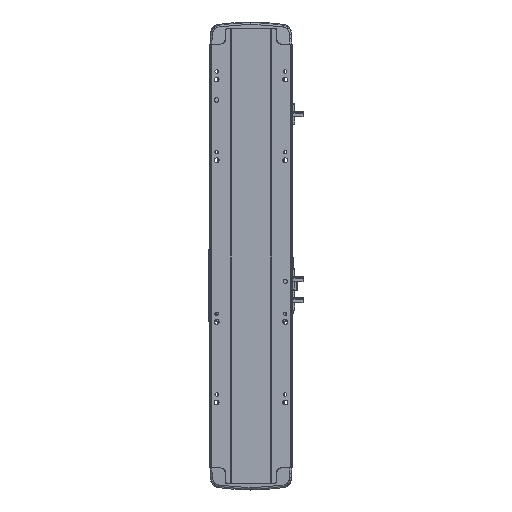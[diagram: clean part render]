
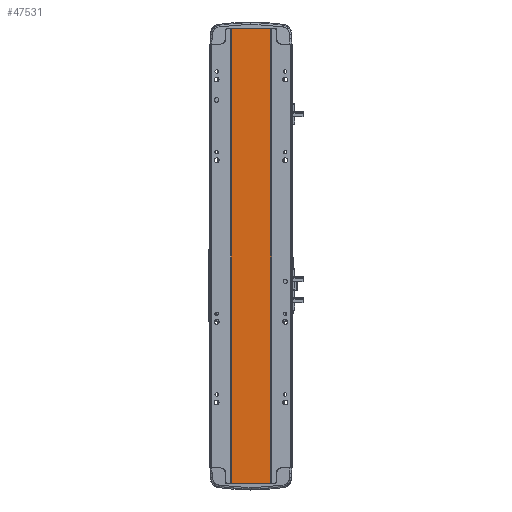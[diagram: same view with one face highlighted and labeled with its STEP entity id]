
A CAD part, front view. The second image highlights one B-rep face of the part: STEP entity #47531.
In plain terms, the highlighted planar face has unit normal (0, -1, 0).
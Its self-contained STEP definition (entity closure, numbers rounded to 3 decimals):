
#130 = VECTOR ( 'NONE', #29717, 1000. ) ;
#1720 = CARTESIAN_POINT ( 'NONE',  ( 0., 2., 563. ) ) ;
#1779 = DIRECTION ( 'NONE',  ( 1., 0., 0. ) ) ;
#2295 = CARTESIAN_POINT ( 'NONE',  ( -24.5, 2., 563. ) ) ;
#4255 = CARTESIAN_POINT ( 'NONE',  ( 24.5, 2., 0. ) ) ;
#8534 = PLANE ( 'NONE',  #39903 ) ;
#9782 = ORIENTED_EDGE ( 'NONE', *, *, #34920, .T. ) ;
#14676 = CARTESIAN_POINT ( 'NONE',  ( 24.5, 2., 563. ) ) ;
#19405 = VECTOR ( 'NONE', #46070, 1000. ) ;
#19935 = FACE_OUTER_BOUND ( 'NONE', #44659, .T. ) ;
#21938 = VERTEX_POINT ( 'NONE', #2295 ) ;
#22096 = EDGE_CURVE ( 'NONE', #31281, #25349, #35074, .T. ) ;
#22335 = EDGE_CURVE ( 'NONE', #21938, #42171, #30478, .T. ) ;
#24532 = DIRECTION ( 'NONE',  ( 0., 0., 1. ) ) ;
#25211 = VECTOR ( 'NONE', #45633, 1000. ) ;
#25349 = VERTEX_POINT ( 'NONE', #44213 ) ;
#25741 = LINE ( 'NONE', #46555, #35022 ) ;
#29717 = DIRECTION ( 'NONE',  ( 0., 0., -1. ) ) ;
#30478 = LINE ( 'NONE', #41829, #19405 ) ;
#31281 = VERTEX_POINT ( 'NONE', #44318 ) ;
#33686 = ORIENTED_EDGE ( 'NONE', *, *, #35640, .F. ) ;
#34920 = EDGE_CURVE ( 'NONE', #42171, #25349, #41471, .T. ) ;
#35017 = CARTESIAN_POINT ( 'NONE',  ( -24.5, 2., 0. ) ) ;
#35022 = VECTOR ( 'NONE', #1779, 1000. ) ;
#35074 = LINE ( 'NONE', #14676, #130 ) ;
#35640 = EDGE_CURVE ( 'NONE', #21938, #31281, #25741, .T. ) ;
#36274 = ORIENTED_EDGE ( 'NONE', *, *, #22335, .T. ) ;
#39903 = AXIS2_PLACEMENT_3D ( 'NONE', #1720, #42706, #24532 ) ;
#41471 = LINE ( 'NONE', #4255, #25211 ) ;
#41829 = CARTESIAN_POINT ( 'NONE',  ( -24.5, 2., 563. ) ) ;
#41863 = ORIENTED_EDGE ( 'NONE', *, *, #22096, .F. ) ;
#42171 = VERTEX_POINT ( 'NONE', #35017 ) ;
#42706 = DIRECTION ( 'NONE',  ( 0., 1., 0. ) ) ;
#44213 = CARTESIAN_POINT ( 'NONE',  ( 24.5, 2., 0. ) ) ;
#44318 = CARTESIAN_POINT ( 'NONE',  ( 24.5, 2., 563. ) ) ;
#44659 = EDGE_LOOP ( 'NONE', ( #36274, #9782, #41863, #33686 ) ) ;
#45633 = DIRECTION ( 'NONE',  ( 1., 0., 0. ) ) ;
#46070 = DIRECTION ( 'NONE',  ( 0., 0., -1. ) ) ;
#46555 = CARTESIAN_POINT ( 'NONE',  ( -24.5, 2., 563. ) ) ;
#47531 = ADVANCED_FACE ( 'NONE', ( #19935 ), #8534, .F. ) ;
